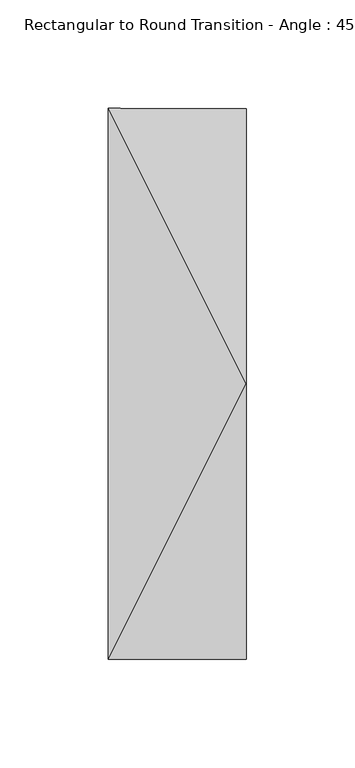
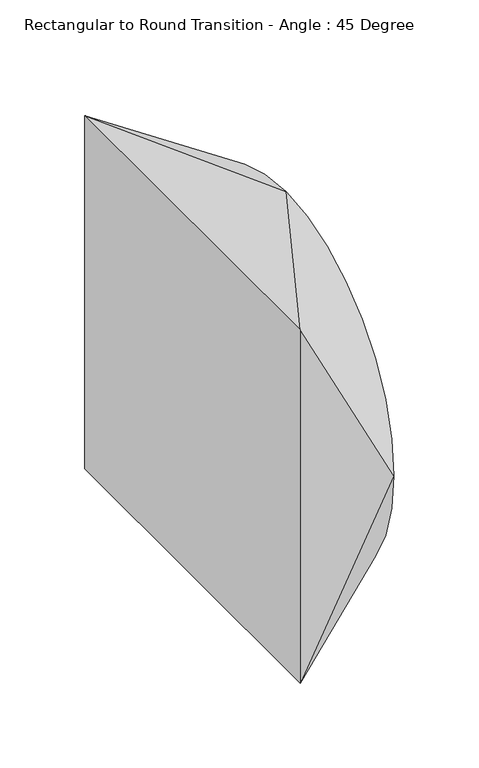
"""IFC4 building model written with IfcOpenShell, lengths in millimetres: duct fitting geometry, Rectangular to Round Transition - Angle : 45 Degree."""

import ifcopenshell
import ifcopenshell.guid

model = None  # the IFC model being written
_history = None  # IfcOwnerHistory: only IFC2X3 demands one
_inside = {}  # id of a spatial element -> (the spatial element, [elements in it])
_under = {}  # id of a project, library or spatial element -> (it, [spatial elements below it])
_declared = {}  # id of a project -> (the project, [libraries it declares])
_typed = {}  # id of a type object -> (the type object, [elements of that type])
_made_of = {}  # id of a material, layer set ... -> (it, [elements and type objects made of it])


def new_model(schema):
    """Start an empty IFC model of exactly this schema.

    Asked for "IFC4X3", IfcOpenShell would pick the latest addendum, in which some entities
    have other attributes; the version numbers below select the first issue.
    IFC2X3 requires an IfcOwnerHistory on every rooted entity: one is made here for all.
    """
    global model, _history
    if schema == "IFC4X3":
        model = ifcopenshell.file(schema_version=(4, 3, 0, 0))
    else:
        model = ifcopenshell.file(schema=schema)
    _inside.clear()
    _under.clear()
    _declared.clear()
    _typed.clear()
    _made_of.clear()
    _history = None
    if model.schema == "IFC2X3":
        org = make("IfcOrganization", Name="unknown")
        user = make(
            "IfcPersonAndOrganization",
            ThePerson=make("IfcPerson", FamilyName="unknown"),
            TheOrganization=org,
        )
        app = make(
            "IfcApplication",
            ApplicationDeveloper=org,
            Version="unknown",
            ApplicationFullName="unknown",
            ApplicationIdentifier="unknown",
        )
        _history = make(
            "IfcOwnerHistory",
            OwningUser=user,
            OwningApplication=app,
            ChangeAction="ADDED",
            CreationDate=0,
        )
    return model


def make(cls, **values):
    """One entity of the class cls with the attributes given. An attribute that is None is left unset."""
    return model.create_entity(
        cls, **{name: value for name, value in values.items() if value is not None}
    )


def rooted(cls, **values):
    """An entity with a GlobalId (a new one), such as an element, a storey or a relation."""
    return make(cls, GlobalId=ifcopenshell.guid.new(), OwnerHistory=_history, **values)


def si_unit(unit_type, name, prefix=None):
    """IfcSIUnit, for example si_unit("LENGTHUNIT", "METRE", prefix="MILLI")."""
    return make("IfcSIUnit", UnitType=unit_type, Prefix=prefix, Name=name)


def assignment(units):
    """IfcUnitAssignment: the units of a project."""
    return None if units is None else make("IfcUnitAssignment", Units=units)


def point(xyz):
    """IfcCartesianPoint."""
    return None if xyz is None else make("IfcCartesianPoint", Coordinates=xyz)


def direction(xyz):
    """IfcDirection."""
    return None if xyz is None else make("IfcDirection", DirectionRatios=xyz)


def frame(location, z_axis=None, x_axis=None):
    """IfcAxis2Placement3D, a coordinate frame: its origin and axes. An axis left out is left unset."""
    return make(
        "IfcAxis2Placement3D",
        Location=point(location),
        Axis=direction(z_axis),
        RefDirection=direction(x_axis),
    )


def origin():
    """The frame at (0, 0, 0) with its axes left unset."""
    return frame((0.0, 0.0, 0.0))


def place(relative_to, where):
    """IfcLocalPlacement: puts the frame where relative to a parent placement (None: the world)."""
    return make(
        "IfcLocalPlacement", PlacementRelTo=relative_to, RelativePlacement=where
    )


def context(
    kind, dimensions, precision=None, world=None, true_north=None, identifier=None
):
    """IfcGeometricRepresentationContext, for example the 3D "Model" context."""
    return make(
        "IfcGeometricRepresentationContext",
        ContextIdentifier=identifier,
        ContextType=kind,
        CoordinateSpaceDimension=dimensions,
        Precision=precision,
        WorldCoordinateSystem=world,
        TrueNorth=true_north,
    )


def project(units=None, contexts=None):
    """IfcProject with its units and contexts."""
    return rooted(
        "IfcProject",
        Name="project",
        RepresentationContexts=contexts,
        UnitsInContext=assignment(units),
    )


def spatial(cls, under=None, at=None, **own):
    """A site, building, storey or space (cls), placed at a placement, below another one or the project."""
    s = rooted(cls, ObjectPlacement=at, **own)
    if under is not None:
        _under.setdefault(under.id(), (under, []))[1].append(s)
    return s


def circle_curve(where, radius):
    """IfcCircle in the frame where."""
    return make("IfcCircle", Position=where, Radius=radius)


def shape(context_of_items, identifier, shape_type, items):
    """IfcShapeRepresentation: the items that make up one representation, for example the "Body"."""
    return make(
        "IfcShapeRepresentation",
        ContextOfItems=context_of_items,
        RepresentationIdentifier=identifier,
        RepresentationType=shape_type,
        Items=items,
    )


def source(mapping_origin, context_of_items, identifier, shape_type, items):
    """IfcRepresentationMap: a shape defined once, which mapped items show again and again."""
    return make(
        "IfcRepresentationMap",
        MappingOrigin=mapping_origin,
        MappedRepresentation=shape(context_of_items, identifier, shape_type, items),
    )


def transform(
    local_origin,
    x_axis=None,
    y_axis=None,
    z_axis=None,
    scale=None,
    scale2=None,
    scale3=None,
    uniform=True,
):
    """IfcCartesianTransformationOperator3D, or its non-uniform kind. x_axis, y_axis, z_axis: its Axis1, 2, 3."""
    if uniform:
        return make(
            "IfcCartesianTransformationOperator3D",
            Axis1=direction(x_axis),
            Axis2=direction(y_axis),
            LocalOrigin=point(local_origin),
            Scale=scale,
            Axis3=direction(z_axis),
        )
    return make(
        "IfcCartesianTransformationOperator3DnonUniform",
        Axis1=direction(x_axis),
        Axis2=direction(y_axis),
        LocalOrigin=point(local_origin),
        Scale=scale,
        Axis3=direction(z_axis),
        Scale2=scale2,
        Scale3=scale3,
    )


def mapped(mapping_source, mapping_target):
    """IfcMappedItem: shows the shape of a source again, moved by a transform."""
    return make(
        "IfcMappedItem", MappingSource=mapping_source, MappingTarget=mapping_target
    )


def made_of(thing, what):
    """Note that an element or type object is made of a material, layer set ...; save() writes the relation."""
    if what is not None:
        _made_of.setdefault(what.id(), (what, []))[1].append(thing)
    return thing


def element(
    cls,
    number,
    at=None,
    inside=None,
    cuts=None,
    type_object=None,
    material=None,
    context=None,
    identifier="Body",
    shape_type=None,
    held_by="IfcProductDefinitionShape",
    body=None,
    shapes=None,
    **own,
):
    """One element of the class cls, such as IfcWall. Its Tag is "e" and its number.

    at: its placement. inside: the storey or other place that contains it. cuts: it is an
    opening in that element (IfcRelVoidsElement). A single representation is given by context,
    identifier, shape_type and body (its items); several are given by shapes. held_by: the class
    of the entity that holds the representations. save() writes the other relations.
    """
    e = rooted(cls, Tag="e%d" % number, ObjectPlacement=at, **own)
    if body is not None:
        shapes = [shape(context, identifier, shape_type, body)]
    if shapes is not None:
        e.Representation = make(held_by, Representations=shapes)
    if inside is not None:
        _inside.setdefault(inside.id(), (inside, []))[1].append(e)
    if cuts is not None:
        rooted(
            "IfcRelVoidsElement", RelatingBuildingElement=cuts, RelatedOpeningElement=e
        )
    if type_object is not None:
        _typed.setdefault(type_object.id(), (type_object, []))[1].append(e)
    return made_of(e, material)


def aggregate(whole, parts):
    """IfcRelAggregates: a whole, such as a stair, and the parts it consists of."""
    return rooted("IfcRelAggregates", RelatingObject=whole, RelatedObjects=parts)


def save(model, path):
    """Write the relations noted so far, then the file.

    IfcRelAggregates (storeys below a building ...), IfcRelContainedInSpatialStructure (elements
    in a storey), IfcRelDefinesByType, IfcRelAssociatesMaterial and IfcRelDeclares: one each for
    every whole, place, type object, material and project.
    """
    for whole, parts in _under.values():
        aggregate(whole, parts)
    for where, things in _inside.values():
        rooted(
            "IfcRelContainedInSpatialStructure",
            RelatedElements=things,
            RelatingStructure=where,
        )
    for kind, things in _typed.values():
        rooted("IfcRelDefinesByType", RelatedObjects=things, RelatingType=kind)
    for what, things in _made_of.values():
        rooted("IfcRelAssociatesMaterial", RelatedObjects=things, RelatingMaterial=what)
    for by, libraries in _declared.values():
        rooted("IfcRelDeclares", RelatingContext=by, RelatedDefinitions=libraries)
    model.write(path)


def plane_surface(at):
    """IfcPlane: the flat surface through the origin of the frame at, square to its z axis."""
    return make("IfcPlane", Position=at)


def spline_surface(u_degree, v_degree, points, u_multiplicities, v_multiplicities, u_knots, v_knots, weights=None):
    """IfcBSplineSurfaceWithKnots; with weights, IfcRationalBSplineSurfaceWithKnots. points: one row for each step in u."""
    own = dict(
        UDegree=u_degree,
        VDegree=v_degree,
        ControlPointsList=[[point(p) for p in row] for row in points],
        SurfaceForm="UNSPECIFIED",
        UClosed=False,
        VClosed=False,
        SelfIntersect=False,
        UMultiplicities=u_multiplicities,
        VMultiplicities=v_multiplicities,
        UKnots=u_knots,
        VKnots=v_knots,
        KnotSpec="UNSPECIFIED",
    )
    if weights is None:
        return make("IfcBSplineSurfaceWithKnots", **own)
    return make("IfcRationalBSplineSurfaceWithKnots", WeightsData=weights, **own)


def advanced_brep(points, edges, surfaces, faces):
    """IfcAdvancedBrep: a solid bounded by faces that lie on surfaces and meet in shared edges.

    An edge is (start, end): straight between two places in points (the first is 0);
    or (start, end, curve); or (start, end, curve, False) where it runs against its curve.
    A face is (place in surfaces, loops), or (place, loops, False) where it looks against
    its surface's normal. A loop lists edges by number (the first is 1), with a minus sign
    where the edge is run from its end to its start. The first loop is the outer one.
    """
    corners = [point(p) for p in points]
    vertices = [make("IfcVertexPoint", VertexGeometry=c) for c in corners]
    made = []
    for start, end, *more in edges:
        made.append(
            make(
                "IfcEdgeCurve",
                EdgeStart=vertices[start],
                EdgeEnd=vertices[end],
                EdgeGeometry=more[0] if more else make("IfcPolyline", Points=[corners[start], corners[end]]),
                SameSense=more[1] if len(more) > 1 else True,
            )
        )
    hull = []
    for where, loops, *sense in faces:
        bounds = []
        for j, loop in enumerate(loops):
            ring = [make("IfcOrientedEdge", EdgeElement=made[abs(k) - 1], Orientation=k > 0) for k in loop]
            bounds.append(
                make(
                    "IfcFaceOuterBound" if j == 0 else "IfcFaceBound",
                    Bound=make("IfcEdgeLoop", EdgeList=ring),
                    Orientation=True,
                )
            )
        hull.append(make("IfcAdvancedFace", Bounds=bounds, FaceSurface=surfaces[where], SameSense=sense[0] if sense else True))
    return make("IfcAdvancedBrep", Outer=make("IfcClosedShell", CfsFaces=hull))


def rectangular_to_round_transition_angle_45_degree_c2b93fa6(model_context):
    return source(origin(), model_context, "Body", "AdvancedBrep", [
        advanced_brep(
        [(63.5, 0.0, 127.0), (63.5, -127.0, 0.0), (63.5, 0.0, -127.0), (63.5, 127.0, 0.0), (0.0, -127.0, 127.0), (0.0, 127.0, 127.0), (0.0, 127.0, -127.0), (0.0, -127.0, -127.0)],
        [
            (0, 1, circle_curve(frame((63.5, 0.0, 0.0), z_axis=(1.0, 0.0, 0.0), x_axis=(0.0, 1.0, 0.0)), 127.0)),
            (1, 2, circle_curve(frame((63.5, 0.0, 0.0), z_axis=(1.0, 0.0, 0.0), x_axis=(0.0, 1.0, 0.0)), 127.0)),
            (2, 3, circle_curve(frame((63.5, 0.0, 0.0), z_axis=(1.0, 0.0, 0.0), x_axis=(0.0, 1.0, 0.0)), 127.0)),
            (3, 0, circle_curve(frame((63.5, 0.0, 0.0), z_axis=(1.0, 0.0, 0.0), x_axis=(0.0, 1.0, 0.0)), 127.0)),
            (4, 5),
            (5, 6),
            (6, 7),
            (7, 4),
            (0, 4),
            (4, 1),
            (7, 1),
            (7, 2),
            (6, 2),
            (6, 3),
            (5, 3),
            (5, 0),
        ],
        [
            plane_surface(frame((63.5, 0.0, 0.0), z_axis=(1.0, 0.0, 0.0), x_axis=(0.0, 0.0, -1.0))),
            plane_surface(frame((0.0, 0.0, 0.0), z_axis=(-1.0, 0.0, 0.0), x_axis=(0.0, 0.0, -1.0))),
            spline_surface(2, 1, [[(0.0, -127.0, 127.0), (63.5, 0.0, 127.0)], [(0.0, -127.0, 127.0), (63.5, -127.0, 127.0)], [(0.0, -127.0, 127.0), (63.5, -127.0, 0.0)]], [3, 3], [2, 2], [0.0, 1.0], [0.0, 1.0], weights=[[1.0, 1.0], [0.7071067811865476, 0.7071067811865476], [1.0, 1.0]]),
            plane_surface(frame((0.0, -127.0, 0.0), z_axis=(0.0, -1.0, 0.0), x_axis=(0.0, 0.0, -1.0))),
            spline_surface(2, 1, [[(0.0, -127.0, -127.0), (63.5, -127.0, 0.0)], [(0.0, -127.0, -127.0), (63.5, -127.0, -127.0)], [(0.0, -127.0, -127.0), (63.5, 0.0, -127.0)]], [3, 3], [2, 2], [0.0, 1.0], [0.0, 1.0], weights=[[1.0, 1.0], [0.7071067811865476, 0.7071067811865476], [1.0, 1.0]]),
            plane_surface(frame((0.0, 0.0, -127.0), z_axis=(0.0, 0.0, -1.0), x_axis=(0.0, 1.0, 0.0))),
            spline_surface(2, 1, [[(0.0, 127.0, -127.0), (63.5, 0.0, -127.0)], [(0.0, 127.0, -127.0), (63.5, 127.0, -127.0)], [(0.0, 127.0, -127.0), (63.5, 127.0, 0.0)]], [3, 3], [2, 2], [0.0, 1.0], [0.0, 1.0], weights=[[1.0, 1.0], [0.7071067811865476, 0.7071067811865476], [1.0, 1.0]]),
            plane_surface(frame((0.0, 127.0, 0.0), z_axis=(0.0, 1.0, 0.0), x_axis=(0.0, 0.0, 1.0))),
            spline_surface(2, 1, [[(0.0, 127.0, 127.0), (63.5, 127.0, 0.0)], [(0.0, 127.0, 127.0), (63.5, 127.0, 127.0)], [(0.0, 127.0, 127.0), (63.5, 0.0, 127.0)]], [3, 3], [2, 2], [0.0, 1.0], [0.0, 1.0], weights=[[1.0, 1.0], [0.7071067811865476, 0.7071067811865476], [1.0, 1.0]]),
            plane_surface(frame((0.0, 0.0, 127.0), z_axis=(0.0, 0.0, 1.0), x_axis=(0.0, -1.0, 0.0))),
        ],
        [
            (0, [[1, 2, 3, 4]]),
            (1, [[5, 6, 7, 8]]),
            (2, [[-1, 9, 10]]),
            (3, [[-8, 11, -10]]),
            (4, [[-2, -11, 12]]),
            (5, [[-7, 13, -12]]),
            (6, [[-3, -13, 14]]),
            (7, [[-6, 15, -14]]),
            (8, [[-4, -15, 16]]),
            (9, [[-5, -9, -16]]),
        ],
    ),
    ])


if __name__ == "__main__":
    model = new_model("IFC4")
    model_context = context("Model", 3, world=origin())
    ifc_project = project(units=[si_unit("LENGTHUNIT", "METRE", prefix="MILLI")], contexts=[model_context])
    site = spatial("IfcSite", under=ifc_project)
    building = spatial("IfcBuilding", under=site)
    placement = place(None, origin())
    rectangular_to_round_transition_angle_45_degree_shape = rectangular_to_round_transition_angle_45_degree_c2b93fa6(model_context)
    element("IfcDuctFitting", 1, ObjectType="Rectangular to Round Transition - Angle : 45 Degree", at=placement, inside=building, context=model_context, shape_type="MappedRepresentation", body=[
        mapped(rectangular_to_round_transition_angle_45_degree_shape, transform((0.0, 0.0, 0.0), x_axis=(1.0, 0.0, 0.0), y_axis=(0.0, 1.0, 0.0), z_axis=(0.0, 0.0, 1.0))),
    ])
    save(model, "model.ifc")
